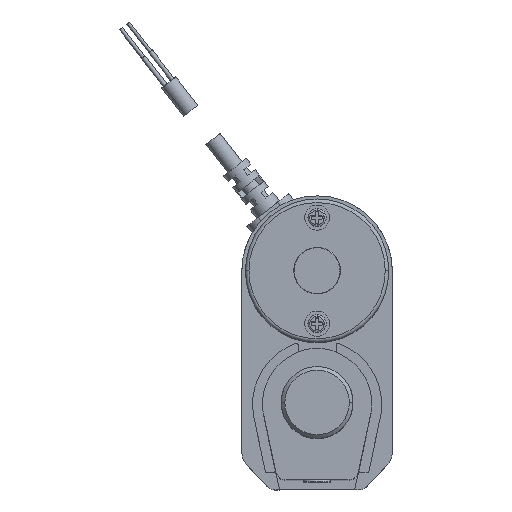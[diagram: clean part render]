
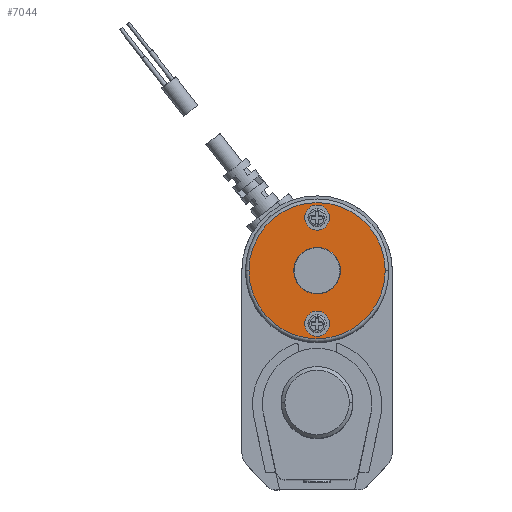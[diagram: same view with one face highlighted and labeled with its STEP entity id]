
A CAD part, top view. The second image highlights one B-rep face of the part: STEP entity #7044.
In plain terms, the highlighted planar face has unit normal (0, 0, 1).
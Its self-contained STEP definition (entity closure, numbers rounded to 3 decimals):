
#148 = CARTESIAN_POINT ( 'NONE',  ( 0., 6.354, 95. ) ) ;
#272 = CARTESIAN_POINT ( 'NONE',  ( 0., 35.954, 95. ) ) ;
#407 = AXIS2_PLACEMENT_3D ( 'NONE', #7650, #1793, #8910 ) ;
#439 = VERTEX_POINT ( 'NONE', #8740 ) ;
#467 = EDGE_LOOP ( 'NONE', ( #13560, #8693 ) ) ;
#520 = CARTESIAN_POINT ( 'NONE',  ( -1.5, 6.354, 95. ) ) ;
#1010 = DIRECTION ( 'NONE',  ( 0., 0., 1. ) ) ;
#1353 = DIRECTION ( 'NONE',  ( 0., 0., 1. ) ) ;
#1435 = FACE_BOUND ( 'NONE', #2515, .T. ) ;
#1559 = EDGE_CURVE ( 'NONE', #12637, #15207, #8130, .T. ) ;
#1793 = DIRECTION ( 'NONE',  ( 0., 0., 1. ) ) ;
#2515 = EDGE_LOOP ( 'NONE', ( #7216, #6800 ) ) ;
#2574 = DIRECTION ( 'NONE',  ( -1., 0., 0. ) ) ;
#2580 = AXIS2_PLACEMENT_3D ( 'NONE', #272, #5219, #3953 ) ;
#2596 = DIRECTION ( 'NONE',  ( -1., 0., 0. ) ) ;
#2697 = CARTESIAN_POINT ( 'NONE',  ( 0., 21.154, 95. ) ) ;
#3116 = EDGE_CURVE ( 'NONE', #6448, #3236, #13723, .T. ) ;
#3210 = EDGE_CURVE ( 'NONE', #14161, #439, #4891, .T. ) ;
#3236 = VERTEX_POINT ( 'NONE', #520 ) ;
#3559 = CIRCLE ( 'NONE', #6216, 19. ) ;
#3953 = DIRECTION ( 'NONE',  ( -1., 0., 0. ) ) ;
#4472 = CIRCLE ( 'NONE', #13755, 1.5 ) ;
#4566 = CARTESIAN_POINT ( 'NONE',  ( 0., 21.154, 95. ) ) ;
#4891 = CIRCLE ( 'NONE', #407, 19. ) ;
#5219 = DIRECTION ( 'NONE',  ( 0., 0., 1. ) ) ;
#5249 = EDGE_LOOP ( 'NONE', ( #13898, #14885 ) ) ;
#6215 = DIRECTION ( 'NONE',  ( -1., 0., 0. ) ) ;
#6216 = AXIS2_PLACEMENT_3D ( 'NONE', #4566, #1010, #9388 ) ;
#6297 = FACE_BOUND ( 'NONE', #467, .T. ) ;
#6328 = CARTESIAN_POINT ( 'NONE',  ( 0., 6.354, 95. ) ) ;
#6348 = DIRECTION ( 'NONE',  ( 0., 0., 1. ) ) ;
#6448 = VERTEX_POINT ( 'NONE', #10314 ) ;
#6800 = ORIENTED_EDGE ( 'NONE', *, *, #3116, .F. ) ;
#7044 = ADVANCED_FACE ( 'NONE', ( #6297, #1435, #7798 ), #13556, .T. ) ;
#7216 = ORIENTED_EDGE ( 'NONE', *, *, #11727, .F. ) ;
#7650 = CARTESIAN_POINT ( 'NONE',  ( 0., 21.154, 95. ) ) ;
#7798 = FACE_OUTER_BOUND ( 'NONE', #5249, .T. ) ;
#8130 = CIRCLE ( 'NONE', #2580, 1.5 ) ;
#8331 = EDGE_CURVE ( 'NONE', #15207, #12637, #13165, .T. ) ;
#8693 = ORIENTED_EDGE ( 'NONE', *, *, #8331, .F. ) ;
#8740 = CARTESIAN_POINT ( 'NONE',  ( 19., 21.154, 95. ) ) ;
#8910 = DIRECTION ( 'NONE',  ( -1., 0., 0. ) ) ;
#8957 = DIRECTION ( 'NONE',  ( 0., 0., 1. ) ) ;
#9058 = CARTESIAN_POINT ( 'NONE',  ( 1.5, 35.954, 95. ) ) ;
#9164 = DIRECTION ( 'NONE',  ( -1., 0., 0. ) ) ;
#9388 = DIRECTION ( 'NONE',  ( -1., 0., 0. ) ) ;
#9469 = AXIS2_PLACEMENT_3D ( 'NONE', #148, #6348, #2574 ) ;
#10187 = CARTESIAN_POINT ( 'NONE',  ( -1.5, 35.954, 95. ) ) ;
#10314 = CARTESIAN_POINT ( 'NONE',  ( 1.5, 6.354, 95. ) ) ;
#10610 = AXIS2_PLACEMENT_3D ( 'NONE', #12731, #8957, #9164 ) ;
#10935 = EDGE_CURVE ( 'NONE', #439, #14161, #3559, .T. ) ;
#11727 = EDGE_CURVE ( 'NONE', #3236, #6448, #4472, .T. ) ;
#12637 = VERTEX_POINT ( 'NONE', #10187 ) ;
#12731 = CARTESIAN_POINT ( 'NONE',  ( 0., 35.954, 95. ) ) ;
#13165 = CIRCLE ( 'NONE', #10610, 1.5 ) ;
#13399 = DIRECTION ( 'NONE',  ( 0., 0., 1. ) ) ;
#13412 = AXIS2_PLACEMENT_3D ( 'NONE', #2697, #13399, #2596 ) ;
#13556 = PLANE ( 'NONE',  #13412 ) ;
#13560 = ORIENTED_EDGE ( 'NONE', *, *, #1559, .F. ) ;
#13723 = CIRCLE ( 'NONE', #9469, 1.5 ) ;
#13755 = AXIS2_PLACEMENT_3D ( 'NONE', #6328, #1353, #6215 ) ;
#13898 = ORIENTED_EDGE ( 'NONE', *, *, #3210, .T. ) ;
#14161 = VERTEX_POINT ( 'NONE', #14777 ) ;
#14777 = CARTESIAN_POINT ( 'NONE',  ( -19., 21.154, 95. ) ) ;
#14885 = ORIENTED_EDGE ( 'NONE', *, *, #10935, .T. ) ;
#15207 = VERTEX_POINT ( 'NONE', #9058 ) ;
